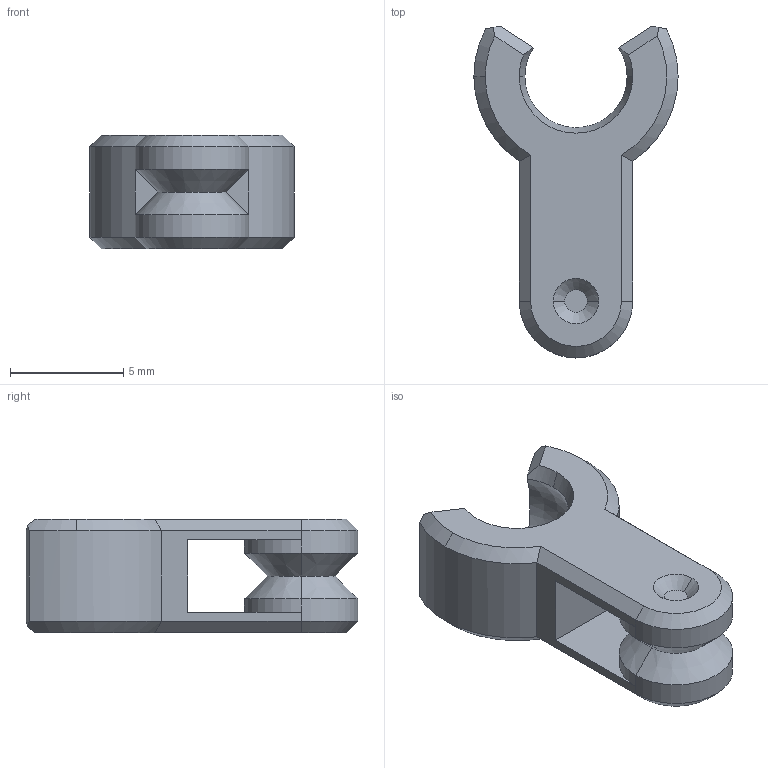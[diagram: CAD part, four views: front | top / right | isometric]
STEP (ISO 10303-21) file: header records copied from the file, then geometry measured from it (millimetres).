
FILE_DESCRIPTION (( 'STEP AP214' ), '1' );
FILE_NAME ('Upper Front Leg.STEP', '2023-12-23T22:23:22', ( '' ), ( '' ), 'SwSTEP 2.0', 'SolidWorks 2023', '' );
FILE_SCHEMA (( 'AUTOMOTIVE_DESIGN' ));
Length unit declared in the file: millimetre
Products named in the file (1): Upper Front Leg
Bounding box: 9 x 14.62 x 5 mm (x, y, z)
Volume: 260.5 mm3; surface area: 406.5 mm2
Topology: 1 solids, 1 shells, 52 faces, 134 edges, 83 vertices
Faces by surface type: cone 22, plane 21, cylinder 7, sphere 2
Entity records: 1592 total; most frequent: CARTESIAN_POINT 313, DIRECTION 271, ORIENTED_EDGE 262, EDGE_CURVE 131, AXIS2_PLACEMENT_3D 103, VERTEX_POINT 81, VECTOR 65, LINE 65
